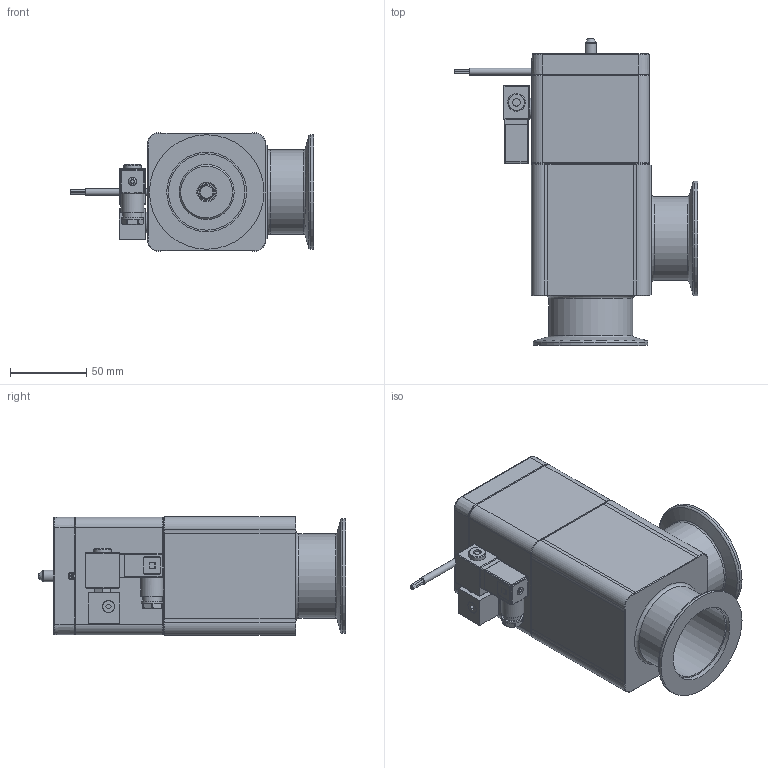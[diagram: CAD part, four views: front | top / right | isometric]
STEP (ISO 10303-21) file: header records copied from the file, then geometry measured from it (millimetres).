
FILE_DESCRIPTION(/* description */ (''),/* implementation_level */ '2;1');
FILE_NAME(/* name */ '1159997965_203.stp',/* time_stamp */ '2013-08-26T15:08:13+02:00',/* author */ (''),/* organization */ (''),/* preprocessor_version */ 'ST-DEVELOPER v11',/* originating_system */ 'SIEMENS PLM Software NX 7.5',/* authorisation */ '');
FILE_SCHEMA (('AP203_CONFIGURATION_CONTROLLED_3D_DESIGN_OF_MECHANICAL_PARTS_AND_ASSEMBLIES_MIM_LF'));
Length unit declared in the file: millimetre
Products named in the file (13): 467882; 437235; 244091.2; 245144.3; 239888_6.1; 245150; 236204_1.1; 258606.1; 256526.3; 224820.2; N-8501-400.2_MODELNX-ARRAGMNTArrangement 1; 443457; 702427
Assembly tree (16 placements, depth 4):
  702427
    224820.2  x4
    256526.3
    258606.1
    236204_1.1  x2
    245150
    239888_6.1
    245144.3
    443457
      244091.2
      N-8501-400.2_MODELNX-ARRAGMNTArrangement 1
        437235
        467882
Bounding box: 159.2 x 200.99 x 77.6 mm (x, y, z)
Volume: 538994.5 mm3; surface area: 185798.8 mm2
Topology: 23 solids, 24 shells, 846 faces, 2046 edges, 1315 vertices
Faces by surface type: plane 506, cylinder 158, cone 139, bspline 24, torus 14, sphere 5
Full cylindrical faces by diameter (mm): 1.4 x8, 2 x1, 2.5 x5, 2.8 x1, 2.95 x1, 3 x5, 4.2 x1, 4.22 x1, 4.6 x2, 4.7 x2, 4.96 x4, 5 x12, 5.5 x1, 5.6 x2, 6 x8, 6.6 x4, 7.4 x2, 7.6 x1, 7.9 x1, 8 x3, 8.175 x1, 9.1 x1, 10 x5, 10.2 x1, 11.3 x1, 11.4 x1, 11.5 x1, 11.975 x3, 12.015 x2, 12.5 x1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
Entity records: 25934 total; most frequent: CARTESIAN_POINT 5466, DIRECTION 3558, ORIENTED_EDGE 3374, EDGE_CURVE 1687, AXIS2_PLACEMENT_3D 1266, VERTEX_POINT 1189, EDGE_LOOP 1047, LINE 1026
